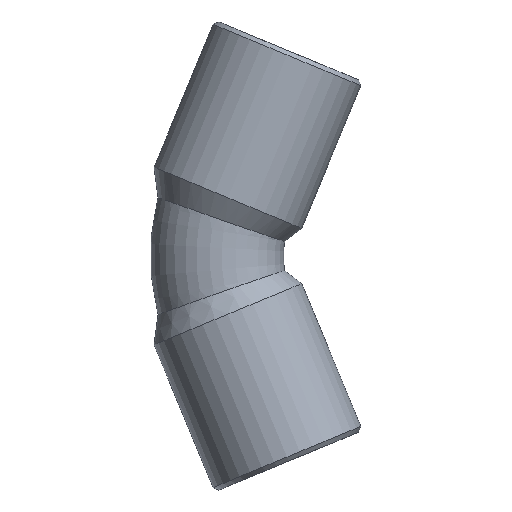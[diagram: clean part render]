
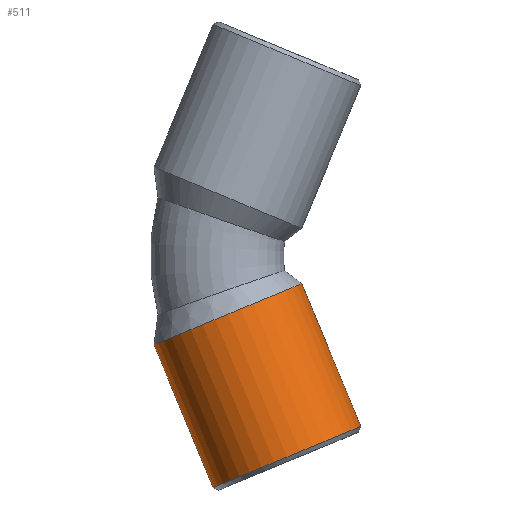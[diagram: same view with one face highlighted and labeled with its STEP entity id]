
A CAD part, front view. The second image highlights one B-rep face of the part: STEP entity #511.
In plain terms, the highlighted cylindrical face has radius 3.6 mm (diameter 7.2 mm), a partial arc.
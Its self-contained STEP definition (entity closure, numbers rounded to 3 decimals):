
#201=CARTESIAN_POINT('',(-5.598,0.,-4.001));
#202=VERTEX_POINT('',#201);
#209=CARTESIAN_POINT('',(1.054,0.,-1.245));
#210=VERTEX_POINT('',#209);
#211=CARTESIAN_POINT('',(-2.272,0.,-2.623));
#212=DIRECTION('',(-0.383,0.,0.924));
#213=DIRECTION('',(0.924,0.0,0.383));
#214=AXIS2_PLACEMENT_3D('',#211,#212,#213);
#215=CIRCLE('',#214,3.6);
#216=EDGE_CURVE('',#202,#210,#215,.T.);
#480=CARTESIAN_POINT('',(-2.21,0.,-2.772));
#481=DIRECTION('',(0.383,0.,-0.924));
#482=DIRECTION('',(0.924,0.0,0.383));
#483=AXIS2_PLACEMENT_3D('',#480,#481,#482);
#484=CYLINDRICAL_SURFACE('',#483,3.6);
#485=CARTESIAN_POINT('',(3.718,0.,-7.676));
#486=VERTEX_POINT('',#485);
#487=CARTESIAN_POINT('',(1.054,0.,-1.245));
#488=DIRECTION('',(0.383,0.,-0.924));
#489=VECTOR('',#488,6.961);
#490=LINE('',#487,#489);
#491=EDGE_CURVE('',#210,#486,#490,.T.);
#492=ORIENTED_EDGE('',*,*,#491,.F.);
#493=ORIENTED_EDGE('',*,*,#216,.F.);
#494=CARTESIAN_POINT('',(-2.934,0.,-10.432));
#495=VERTEX_POINT('',#494);
#496=CARTESIAN_POINT('',(-2.934,0.,-10.432));
#497=DIRECTION('',(-0.383,0.,0.924));
#498=VECTOR('',#497,6.961);
#499=LINE('',#496,#498);
#500=EDGE_CURVE('',#495,#202,#499,.T.);
#501=ORIENTED_EDGE('',*,*,#500,.F.);
#502=CARTESIAN_POINT('',(0.392,0.,-9.054));
#503=DIRECTION('',(0.383,0.,-0.924));
#504=DIRECTION('',(0.924,0.0,0.383));
#505=AXIS2_PLACEMENT_3D('',#502,#503,#504);
#506=CIRCLE('',#505,3.6);
#507=EDGE_CURVE('',#486,#495,#506,.T.);
#508=ORIENTED_EDGE('',*,*,#507,.F.);
#509=EDGE_LOOP('',(#492,#493,#501,#508));
#510=FACE_OUTER_BOUND('',#509,.T.);
#511=ADVANCED_FACE('',(#510),#484,.T.);
